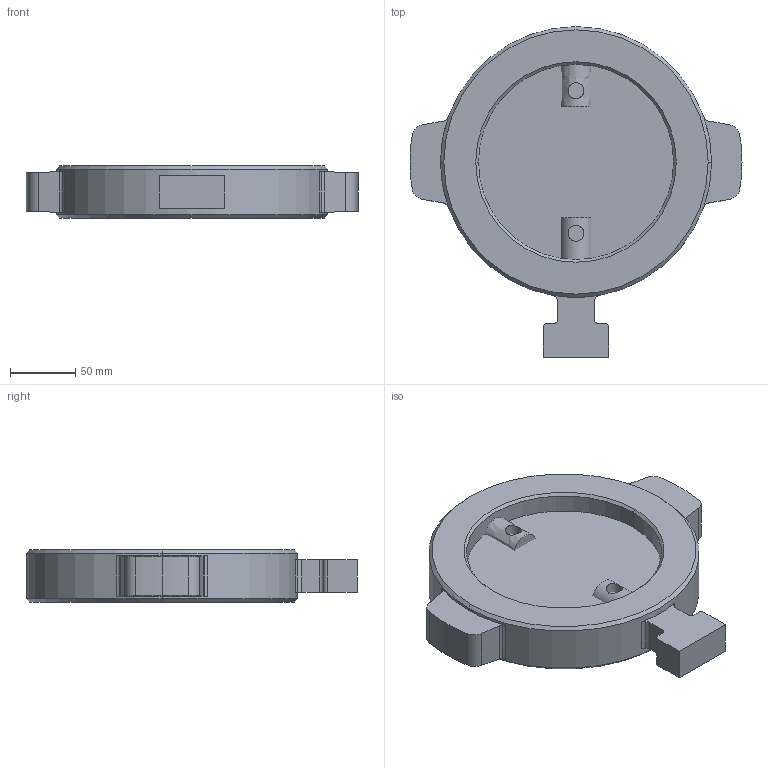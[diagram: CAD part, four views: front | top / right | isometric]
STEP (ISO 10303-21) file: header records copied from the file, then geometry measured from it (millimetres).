
FILE_DESCRIPTION((''),'2;1');
FILE_NAME('KL000007.dwg.stp','2006-10-04T11:29:51',(''),(''),'Mechanical Desktop 2006','Mechanical Desktop 2006',', , ');
FILE_SCHEMA(('AUTOMOTIVE_DESIGN { 1 2 10303 214 0 1 1 1 }'));
Length unit declared in the file: millimetre
Products named in the file (1): Product
Bounding box: 255 x 254 x 40 mm (x, y, z)
Volume: 944148.8 mm3; surface area: 136446.3 mm2
Topology: 4 solids, 4 shells, 71 faces, 178 edges, 116 vertices
Faces by surface type: cylinder 30, plane 19, bspline 14, cone 8
Entity records: 2503 total; most frequent: CARTESIAN_POINT 720, DIRECTION 372, ORIENTED_EDGE 356, EDGE_CURVE 178, AXIS2_PLACEMENT_3D 144, VERTEX_POINT 116, VECTOR 84, LINE 84
